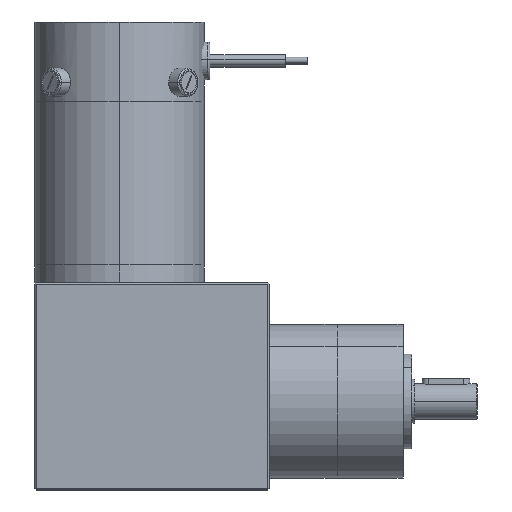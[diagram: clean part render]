
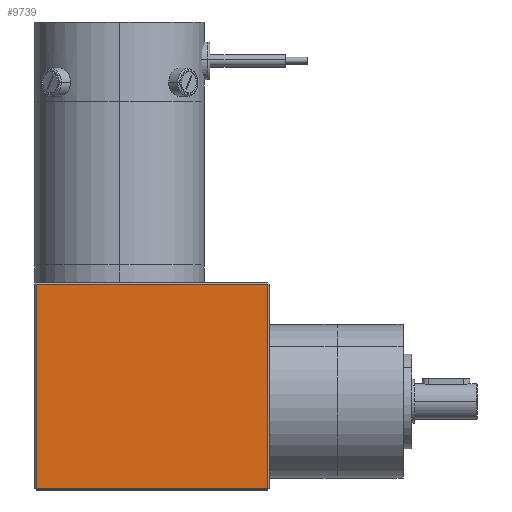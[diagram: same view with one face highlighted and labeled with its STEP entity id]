
A CAD part, top view. The second image highlights one B-rep face of the part: STEP entity #9739.
In plain terms, the highlighted planar face has unit normal (0, 0, 1).
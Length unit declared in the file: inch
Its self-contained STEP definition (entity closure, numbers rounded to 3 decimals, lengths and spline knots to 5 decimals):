
#621 = VECTOR ( 'NONE', #12655, 39.37008 ) ;
#805 = CARTESIAN_POINT ( 'NONE',  ( 6.99727, 2.56603, 3.00127 ) ) ;
#866 = VERTEX_POINT ( 'NONE', #4923 ) ;
#1175 = LINE ( 'NONE', #13157, #3925 ) ;
#1321 = PLANE ( 'NONE',  #5783 ) ;
#1477 = VERTEX_POINT ( 'NONE', #10772 ) ;
#1811 = ORIENTED_EDGE ( 'NONE', *, *, #7310, .T. ) ;
#2518 = DIRECTION ( 'NONE',  ( 1., 0., 0. ) ) ;
#3241 = CARTESIAN_POINT ( 'NONE',  ( 7.01727, -0.16397, 3.00127 ) ) ;
#3868 = VECTOR ( 'NONE', #12888, 39.37008 ) ;
#3925 = VECTOR ( 'NONE', #7608, 39.37008 ) ;
#4374 = LINE ( 'NONE', #12168, #12569 ) ;
#4638 = VERTEX_POINT ( 'NONE', #4817 ) ;
#4817 = CARTESIAN_POINT ( 'NONE',  ( 6.99727, -0.16397, 3.00127 ) ) ;
#4923 = CARTESIAN_POINT ( 'NONE',  ( 3.92427, 2.54603, 3.00127 ) ) ;
#5472 = DIRECTION ( 'NONE',  ( 0., 0., 1. ) ) ;
#5508 = EDGE_LOOP ( 'NONE', ( #12221, #6914, #1811, #8295 ) ) ;
#5783 = AXIS2_PLACEMENT_3D ( 'NONE', #10596, #5472, #2518 ) ;
#6914 = ORIENTED_EDGE ( 'NONE', *, *, #8770, .T. ) ;
#7310 = EDGE_CURVE ( 'NONE', #1477, #866, #1175, .T. ) ;
#7608 = DIRECTION ( 'NONE',  ( -1., 0., 0. ) ) ;
#8199 = DIRECTION ( 'NONE',  ( 0., -1., 0. ) ) ;
#8295 = ORIENTED_EDGE ( 'NONE', *, *, #15784, .T. ) ;
#8505 = LINE ( 'NONE', #805, #3868 ) ;
#8770 = EDGE_CURVE ( 'NONE', #4638, #1477, #8505, .T. ) ;
#9739 = ADVANCED_FACE ( 'NONE', ( #16614 ), #1321, .T. ) ;
#10596 = CARTESIAN_POINT ( 'NONE',  ( 5.46077, 1.19103, 3.00127 ) ) ;
#10772 = CARTESIAN_POINT ( 'NONE',  ( 6.99727, 2.54603, 3.00127 ) ) ;
#11834 = CARTESIAN_POINT ( 'NONE',  ( 3.92427, -0.16397, 3.00127 ) ) ;
#12168 = CARTESIAN_POINT ( 'NONE',  ( 3.92427, -0.18397, 3.00127 ) ) ;
#12221 = ORIENTED_EDGE ( 'NONE', *, *, #17335, .T. ) ;
#12569 = VECTOR ( 'NONE', #8199, 39.37008 ) ;
#12655 = DIRECTION ( 'NONE',  ( 1., 0., 0. ) ) ;
#12888 = DIRECTION ( 'NONE',  ( 0., 1., 0. ) ) ;
#12909 = VERTEX_POINT ( 'NONE', #11834 ) ;
#13157 = CARTESIAN_POINT ( 'NONE',  ( 3.90427, 2.54603, 3.00127 ) ) ;
#14966 = LINE ( 'NONE', #3241, #621 ) ;
#15784 = EDGE_CURVE ( 'NONE', #866, #12909, #4374, .T. ) ;
#16614 = FACE_OUTER_BOUND ( 'NONE', #5508, .T. ) ;
#17335 = EDGE_CURVE ( 'NONE', #12909, #4638, #14966, .T. ) ;
